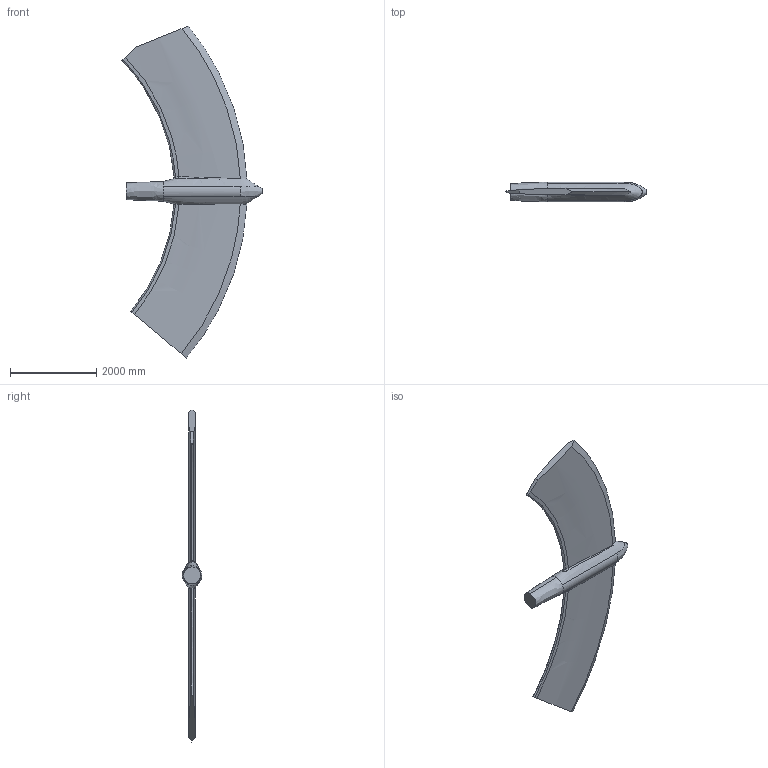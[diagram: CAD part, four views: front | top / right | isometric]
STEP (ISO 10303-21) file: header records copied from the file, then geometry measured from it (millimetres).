
FILE_DESCRIPTION(/* description */ (''),/* implementation_level */ '2;1');
FILE_NAME(/* name */ 'NTF_arc_sector_fwd_rotational_0deg_b.stp',/* time_stamp */ '2024-10-10T15:39:42-04:00',/* author */ (''),/* organization */ (''),/* preprocessor_version */ 'ST-DEVELOPER v16.7',/* originating_system */ 'SIEMENS PLM Software NX 12.0',/* authorisation */ '');
FILE_SCHEMA (('AUTOMOTIVE_DESIGN { 1 0 10303 214 3 1 1 1 }'));
Length unit declared in the file: inch
Products named in the file (1): sbry159C74EA57hn
Bounding box: 3240.67 x 456.21 x 7681.18 mm (x, y, z)
Volume: 1871602930.1 mm3; surface area: 28156208.3 mm2
Topology: 1 solids, 1 shells, 34 faces, 91 edges, 59 vertices
Faces by surface type: bspline 34
Entity records: 8100 total; most frequent: CARTESIAN_POINT 7587, ORIENTED_EDGE 174, EDGE_CURVE 87, VERTEX_POINT 58, B_SPLINE_CURVE_WITH_KNOTS 38, EDGE_LOOP 37, ADVANCED_FACE 34, FACE_OUTER_BOUND 31
